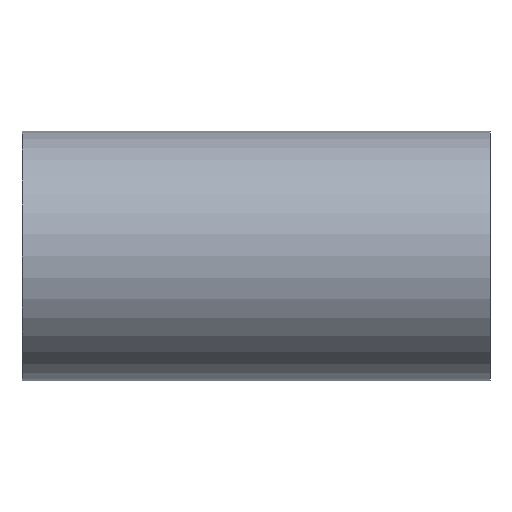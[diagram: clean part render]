
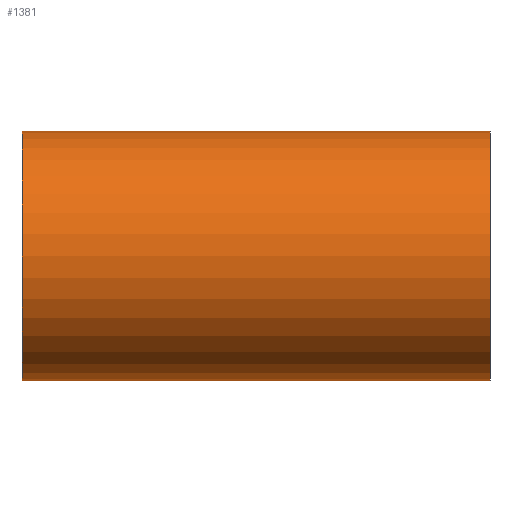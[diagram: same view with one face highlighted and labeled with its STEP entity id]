
A CAD part, front view. The second image highlights one B-rep face of the part: STEP entity #1381.
In plain terms, the highlighted cylindrical face has radius 76.2 mm (diameter 152.4 mm), a partial arc.
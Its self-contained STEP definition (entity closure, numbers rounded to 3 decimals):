
#108 = VECTOR ( 'NONE', #1154, 1000. ) ;
#132 = DIRECTION ( 'NONE',  ( 0., 0., -1. ) ) ;
#150 = LINE ( 'NONE', #893, #953 ) ;
#159 = CARTESIAN_POINT ( 'NONE',  ( -142.9, 0., 76.2 ) ) ;
#244 = AXIS2_PLACEMENT_3D ( 'NONE', #2066, #1104, #132 ) ;
#285 = EDGE_CURVE ( 'NONE', #531, #1011, #760, .T. ) ;
#304 = CYLINDRICAL_SURFACE ( 'NONE', #1213, 76.2 ) ;
#314 = DIRECTION ( 'NONE',  ( 1., 0., 0. ) ) ;
#416 = CARTESIAN_POINT ( 'NONE',  ( -142.9, 0., 0. ) ) ;
#436 = DIRECTION ( 'NONE',  ( 0., 0., -1. ) ) ;
#448 = ORIENTED_EDGE ( 'NONE', *, *, #912, .T. ) ;
#531 = VERTEX_POINT ( 'NONE', #1359 ) ;
#700 = VERTEX_POINT ( 'NONE', #1316 ) ;
#702 = AXIS2_PLACEMENT_3D ( 'NONE', #1044, #1054, #856 ) ;
#718 = CARTESIAN_POINT ( 'NONE',  ( 142.9, 0., 76.2 ) ) ;
#737 = FACE_OUTER_BOUND ( 'NONE', #2017, .T. ) ;
#748 = EDGE_CURVE ( 'NONE', #700, #1011, #1299, .T. ) ;
#760 = CIRCLE ( 'NONE', #244, 76.2 ) ;
#803 = DIRECTION ( 'NONE',  ( 1., 0., 0. ) ) ;
#856 = DIRECTION ( 'NONE',  ( 0., 0., -1. ) ) ;
#868 = ORIENTED_EDGE ( 'NONE', *, *, #748, .F. ) ;
#893 = CARTESIAN_POINT ( 'NONE',  ( -142.9, 0., -76.2 ) ) ;
#912 = EDGE_CURVE ( 'NONE', #700, #1908, #1571, .T. ) ;
#953 = VECTOR ( 'NONE', #803, 1000. ) ;
#1011 = VERTEX_POINT ( 'NONE', #718 ) ;
#1044 = CARTESIAN_POINT ( 'NONE',  ( -142.9, 0., 0. ) ) ;
#1054 = DIRECTION ( 'NONE',  ( 1., 0., 0. ) ) ;
#1104 = DIRECTION ( 'NONE',  ( -1., 0., 0. ) ) ;
#1154 = DIRECTION ( 'NONE',  ( 1., 0., 0. ) ) ;
#1213 = AXIS2_PLACEMENT_3D ( 'NONE', #416, #314, #436 ) ;
#1224 = CARTESIAN_POINT ( 'NONE',  ( -142.9, 0., -76.2 ) ) ;
#1299 = LINE ( 'NONE', #159, #108 ) ;
#1316 = CARTESIAN_POINT ( 'NONE',  ( -142.9, 0., 76.2 ) ) ;
#1359 = CARTESIAN_POINT ( 'NONE',  ( 142.9, 0., -76.2 ) ) ;
#1381 = ADVANCED_FACE ( 'NONE', ( #737 ), #304, .T. ) ;
#1571 = CIRCLE ( 'NONE', #702, 76.2 ) ;
#1617 = EDGE_CURVE ( 'NONE', #1908, #531, #150, .T. ) ;
#1622 = ORIENTED_EDGE ( 'NONE', *, *, #1617, .T. ) ;
#1908 = VERTEX_POINT ( 'NONE', #1224 ) ;
#2011 = ORIENTED_EDGE ( 'NONE', *, *, #285, .T. ) ;
#2017 = EDGE_LOOP ( 'NONE', ( #868, #448, #1622, #2011 ) ) ;
#2066 = CARTESIAN_POINT ( 'NONE',  ( 142.9, 0., 0. ) ) ;
